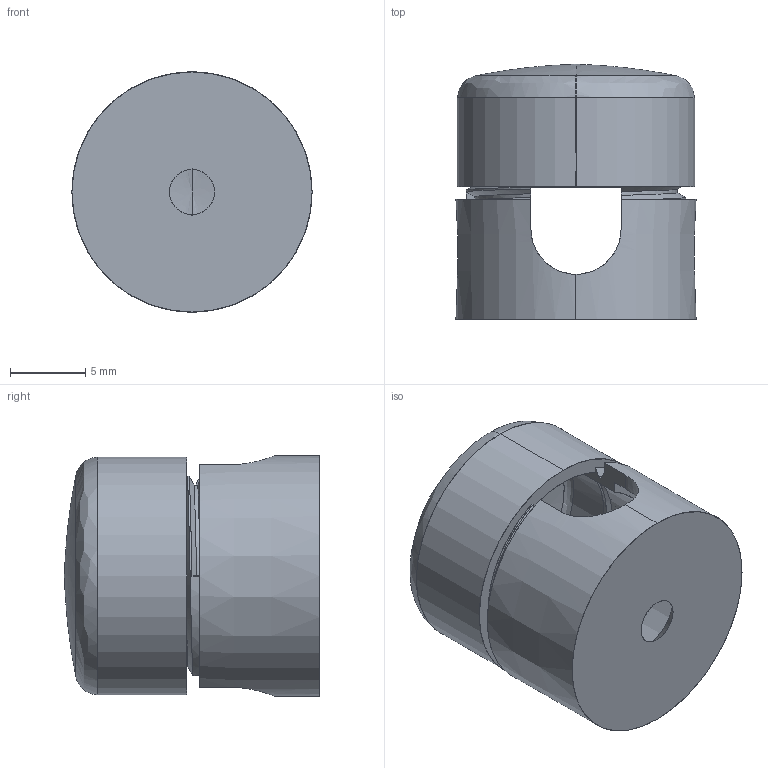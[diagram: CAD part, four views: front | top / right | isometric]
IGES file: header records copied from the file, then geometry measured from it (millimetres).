
Start section: SolidWorks IGES file using analytic representation for surfaces
Global section: file name: F:\GABRYSIA\MODELE 3D\_CAMELEON\MOUNTING_WWW\MOUNTING_C_8405\MOUNTING_C_8405.IGS; native system: SolidWorks 2017; preprocessor: SolidWorks 2017; author: Togambi; date: 200521.153009; units: millimetre
Bounding box: 16 x 17 x 16 mm (x, y, z)
Surface area: 2303.9 mm2 (no closed solid volume)
Topology: 0 solids, 0 shells, 69 faces, 966 edges, 962 vertices
Faces by surface type: bspline 43, revolution 26
